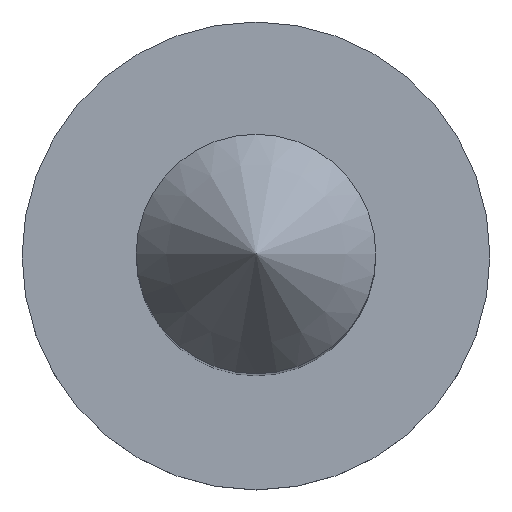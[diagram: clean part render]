
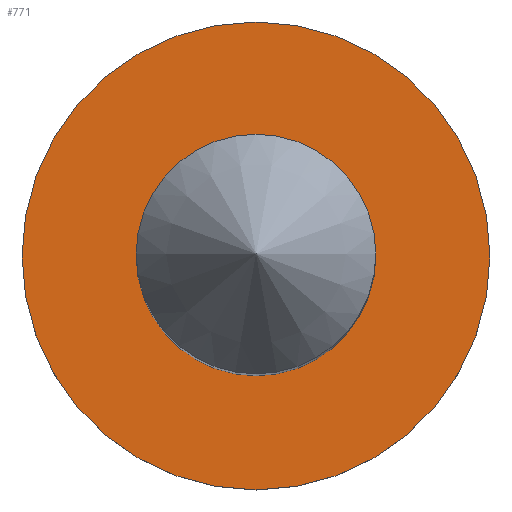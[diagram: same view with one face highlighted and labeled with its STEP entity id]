
A CAD part, top view. The second image highlights one B-rep face of the part: STEP entity #771.
In plain terms, the highlighted planar face has unit normal (0, 0, 1).
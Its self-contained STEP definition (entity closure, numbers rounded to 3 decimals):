
#9 = AXIS2_PLACEMENT_3D ( 'NONE', #902, #461, #769 ) ;
#119 = VERTEX_POINT ( 'NONE', #793 ) ;
#137 = EDGE_CURVE ( 'NONE', #934, #934, #833, .T. ) ;
#142 = ORIENTED_EDGE ( 'NONE', *, *, #137, .F. ) ;
#162 = FACE_BOUND ( 'NONE', #924, .T. ) ;
#258 = CARTESIAN_POINT ( 'NONE',  ( 0., 0., 0. ) ) ;
#278 = ORIENTED_EDGE ( 'NONE', *, *, #568, .F. ) ;
#335 = DIRECTION ( 'NONE',  ( 0., 0., 1. ) ) ;
#389 = FACE_OUTER_BOUND ( 'NONE', #531, .T. ) ;
#444 = DIRECTION ( 'NONE',  ( 0., 0., -1. ) ) ;
#461 = DIRECTION ( 'NONE',  ( 0., 0., -1. ) ) ;
#514 = DIRECTION ( 'NONE',  ( -1., 0., 0. ) ) ;
#531 = EDGE_LOOP ( 'NONE', ( #278 ) ) ;
#538 = PLANE ( 'NONE',  #9 ) ;
#562 = DIRECTION ( 'NONE',  ( -1., 0., 0. ) ) ;
#568 = EDGE_CURVE ( 'NONE', #119, #119, #882, .T. ) ;
#769 = DIRECTION ( 'NONE',  ( -1., 0., 0. ) ) ;
#771 = ADVANCED_FACE ( 'NONE', ( #162, #389 ), #538, .F. ) ;
#793 = CARTESIAN_POINT ( 'NONE',  ( -4.1, 0., 0. ) ) ;
#808 = CARTESIAN_POINT ( 'NONE',  ( 0., 0., 0. ) ) ;
#833 = CIRCLE ( 'NONE', #896, 2.1 ) ;
#882 = CIRCLE ( 'NONE', #928, 4.1 ) ;
#896 = AXIS2_PLACEMENT_3D ( 'NONE', #258, #335, #562 ) ;
#902 = CARTESIAN_POINT ( 'NONE',  ( 0., 0., 0. ) ) ;
#924 = EDGE_LOOP ( 'NONE', ( #142 ) ) ;
#928 = AXIS2_PLACEMENT_3D ( 'NONE', #808, #444, #514 ) ;
#934 = VERTEX_POINT ( 'NONE', #937 ) ;
#937 = CARTESIAN_POINT ( 'NONE',  ( -2.1, 0., 0. ) ) ;
